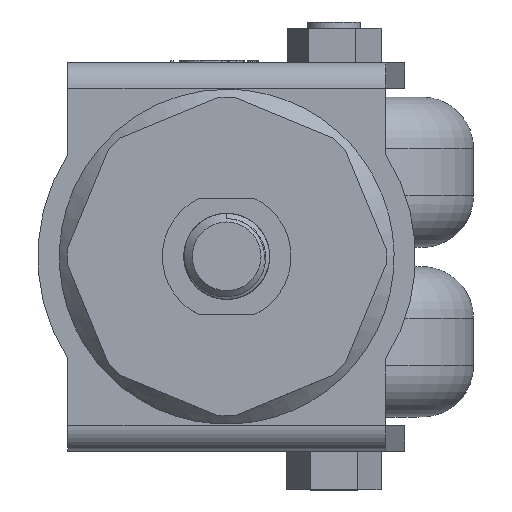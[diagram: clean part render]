
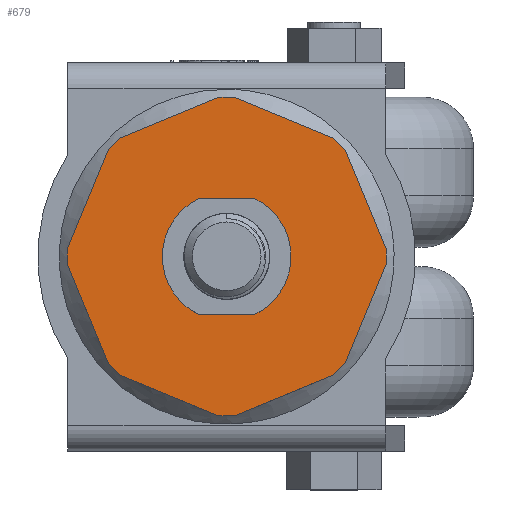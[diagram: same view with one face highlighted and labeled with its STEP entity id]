
A CAD part, top view. The second image highlights one B-rep face of the part: STEP entity #679.
In plain terms, the highlighted planar face has unit normal (0, 0, 1).
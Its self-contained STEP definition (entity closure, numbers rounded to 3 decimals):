
#679=ADVANCED_FACE('',(#1262,#1263),#985,.F.);
#985=PLANE('',#5667);
#1262=FACE_BOUND('',#1454,.T.);
#1263=FACE_BOUND('',#1455,.T.);
#1454=EDGE_LOOP('',(#2269,#2270,#2271,#2272));
#1455=EDGE_LOOP('',(#2273,#2274,#2275,#2276,#2277,#2278,#2279,#2280,#2281,
#2282,#2283,#2284,#2285,#2286,#2287,#2288));
#1868=CIRCLE('',#5662,15.);
#1869=CIRCLE('',#5665,15.);
#2269=ORIENTED_EDGE('',*,*,#4285,.F.);
#2270=ORIENTED_EDGE('',*,*,#4283,.F.);
#2271=ORIENTED_EDGE('',*,*,#4281,.F.);
#2272=ORIENTED_EDGE('',*,*,#4278,.F.);
#2273=ORIENTED_EDGE('',*,*,#4286,.T.);
#2274=ORIENTED_EDGE('',*,*,#4287,.T.);
#2275=ORIENTED_EDGE('',*,*,#4288,.T.);
#2276=ORIENTED_EDGE('',*,*,#4289,.T.);
#2277=ORIENTED_EDGE('',*,*,#4290,.T.);
#2278=ORIENTED_EDGE('',*,*,#4291,.T.);
#2279=ORIENTED_EDGE('',*,*,#4292,.T.);
#2280=ORIENTED_EDGE('',*,*,#4293,.T.);
#2281=ORIENTED_EDGE('',*,*,#4294,.T.);
#2282=ORIENTED_EDGE('',*,*,#4295,.T.);
#2283=ORIENTED_EDGE('',*,*,#4296,.T.);
#2284=ORIENTED_EDGE('',*,*,#4297,.T.);
#2285=ORIENTED_EDGE('',*,*,#4298,.T.);
#2286=ORIENTED_EDGE('',*,*,#4299,.T.);
#2287=ORIENTED_EDGE('',*,*,#4300,.T.);
#2288=ORIENTED_EDGE('',*,*,#4301,.T.);
#3720=VERTEX_POINT('',#11073);
#3721=VERTEX_POINT('',#11074);
#3722=VERTEX_POINT('',#11079);
#3723=VERTEX_POINT('',#11083);
#3724=VERTEX_POINT('',#11089);
#3725=VERTEX_POINT('',#11090);
#3726=VERTEX_POINT('',#11092);
#3727=VERTEX_POINT('',#11094);
#3728=VERTEX_POINT('',#11096);
#3729=VERTEX_POINT('',#11098);
#3730=VERTEX_POINT('',#11100);
#3731=VERTEX_POINT('',#11102);
#3732=VERTEX_POINT('',#11104);
#3733=VERTEX_POINT('',#11106);
#3734=VERTEX_POINT('',#11108);
#3735=VERTEX_POINT('',#11110);
#3736=VERTEX_POINT('',#11112);
#3737=VERTEX_POINT('',#11114);
#3738=VERTEX_POINT('',#11116);
#3739=VERTEX_POINT('',#11118);
#4278=EDGE_CURVE('',#3720,#3721,#4871,.T.);
#4281=EDGE_CURVE('',#3721,#3722,#1868,.T.);
#4283=EDGE_CURVE('',#3722,#3723,#4875,.T.);
#4285=EDGE_CURVE('',#3723,#3720,#1869,.T.);
#4286=EDGE_CURVE('',#3724,#3725,#4877,.T.);
#4287=EDGE_CURVE('',#3725,#3726,#4878,.T.);
#4288=EDGE_CURVE('',#3726,#3727,#4879,.T.);
#4289=EDGE_CURVE('',#3727,#3728,#4880,.T.);
#4290=EDGE_CURVE('',#3728,#3729,#4881,.T.);
#4291=EDGE_CURVE('',#3729,#3730,#4882,.T.);
#4292=EDGE_CURVE('',#3730,#3731,#4883,.T.);
#4293=EDGE_CURVE('',#3731,#3732,#4884,.T.);
#4294=EDGE_CURVE('',#3732,#3733,#4885,.T.);
#4295=EDGE_CURVE('',#3733,#3734,#4886,.T.);
#4296=EDGE_CURVE('',#3734,#3735,#4887,.T.);
#4297=EDGE_CURVE('',#3735,#3736,#4888,.T.);
#4298=EDGE_CURVE('',#3736,#3737,#4889,.T.);
#4299=EDGE_CURVE('',#3737,#3738,#4890,.T.);
#4300=EDGE_CURVE('',#3738,#3739,#4891,.T.);
#4301=EDGE_CURVE('',#3739,#3724,#4892,.T.);
#4871=LINE('',#11072,#5246);
#4875=LINE('',#11082,#5250);
#4877=LINE('',#11088,#5252);
#4878=LINE('',#11091,#5253);
#4879=LINE('',#11093,#5254);
#4880=LINE('',#11095,#5255);
#4881=LINE('',#11097,#5256);
#4882=LINE('',#11099,#5257);
#4883=LINE('',#11101,#5258);
#4884=LINE('',#11103,#5259);
#4885=LINE('',#11105,#5260);
#4886=LINE('',#11107,#5261);
#4887=LINE('',#11109,#5262);
#4888=LINE('',#11111,#5263);
#4889=LINE('',#11113,#5264);
#4890=LINE('',#11115,#5265);
#4891=LINE('',#11117,#5266);
#4892=LINE('',#11119,#5267);
#5246=VECTOR('',#6290,1.);
#5250=VECTOR('',#6300,1.);
#5252=VECTOR('',#6308,1.);
#5253=VECTOR('',#6309,1.);
#5254=VECTOR('',#6310,1.);
#5255=VECTOR('',#6311,1.);
#5256=VECTOR('',#6312,1.);
#5257=VECTOR('',#6313,1.);
#5258=VECTOR('',#6314,1.);
#5259=VECTOR('',#6315,1.);
#5260=VECTOR('',#6316,1.);
#5261=VECTOR('',#6317,1.);
#5262=VECTOR('',#6318,1.);
#5263=VECTOR('',#6319,1.);
#5264=VECTOR('',#6320,1.);
#5265=VECTOR('',#6321,1.);
#5266=VECTOR('',#6322,1.);
#5267=VECTOR('',#6323,1.);
#5662=AXIS2_PLACEMENT_3D('',#11078,#6295,#6296);
#5665=AXIS2_PLACEMENT_3D('',#11086,#6304,#6305);
#5667=AXIS2_PLACEMENT_3D('',#11120,#6324,#6325);
#6290=DIRECTION('',(1.,0.,0.));
#6295=DIRECTION('',(0.,0.,1.));
#6296=DIRECTION('',(1.,0.,0.));
#6300=DIRECTION('',(-1.,0.,0.));
#6304=DIRECTION('',(0.,0.,1.));
#6305=DIRECTION('',(1.,0.,0.));
#6308=DIRECTION('',(-0.924,0.383,0.));
#6309=DIRECTION('',(-1.,0.,0.));
#6310=DIRECTION('',(-0.924,-0.383,0.));
#6311=DIRECTION('',(-0.707,-0.707,0.));
#6312=DIRECTION('',(-0.383,-0.924,0.));
#6313=DIRECTION('',(0.,-1.,0.));
#6314=DIRECTION('',(0.383,-0.924,0.));
#6315=DIRECTION('',(0.707,-0.707,0.));
#6316=DIRECTION('',(0.924,-0.383,0.));
#6317=DIRECTION('',(1.,0.,0.));
#6318=DIRECTION('',(0.924,0.383,0.));
#6319=DIRECTION('',(0.707,0.707,0.));
#6320=DIRECTION('',(0.383,0.924,0.));
#6321=DIRECTION('',(0.,1.,0.));
#6322=DIRECTION('',(-0.383,0.924,0.));
#6323=DIRECTION('',(-0.707,0.707,0.));
#6324=DIRECTION('',(0.,0.,-1.));
#6325=DIRECTION('',(0.,1.,0.));
#11072=CARTESIAN_POINT('',(-6.538,-13.5,-40.));
#11073=CARTESIAN_POINT('',(-6.538,-13.5,-40.));
#11074=CARTESIAN_POINT('',(6.538,-13.5,-40.));
#11078=CARTESIAN_POINT('',(0.,0.,-40.));
#11079=CARTESIAN_POINT('',(6.538,13.5,-40.));
#11082=CARTESIAN_POINT('',(6.538,13.5,-40.));
#11083=CARTESIAN_POINT('',(-6.538,13.5,-40.));
#11086=CARTESIAN_POINT('',(0.,0.,-40.));
#11088=CARTESIAN_POINT('',(13.394,32.336,-40.));
#11089=CARTESIAN_POINT('',(24.94,27.553,-40.));
#11090=CARTESIAN_POINT('',(1.848,37.118,-40.));
#11091=CARTESIAN_POINT('',(-1.848,37.118,-40.));
#11092=CARTESIAN_POINT('',(-1.848,37.118,-40.));
#11093=CARTESIAN_POINT('',(-13.394,32.336,-40.));
#11094=CARTESIAN_POINT('',(-24.94,27.553,-40.));
#11095=CARTESIAN_POINT('',(-27.553,24.94,-40.));
#11096=CARTESIAN_POINT('',(-27.553,24.94,-40.));
#11097=CARTESIAN_POINT('',(-32.336,13.394,-40.));
#11098=CARTESIAN_POINT('',(-37.118,1.848,-40.));
#11099=CARTESIAN_POINT('',(-37.118,-1.848,-40.));
#11100=CARTESIAN_POINT('',(-37.118,-1.848,-40.));
#11101=CARTESIAN_POINT('',(-32.336,-13.394,-40.));
#11102=CARTESIAN_POINT('',(-27.553,-24.94,-40.));
#11103=CARTESIAN_POINT('',(-24.94,-27.553,-40.));
#11104=CARTESIAN_POINT('',(-24.94,-27.553,-40.));
#11105=CARTESIAN_POINT('',(-13.394,-32.336,-40.));
#11106=CARTESIAN_POINT('',(-1.848,-37.118,-40.));
#11107=CARTESIAN_POINT('',(1.848,-37.118,-40.));
#11108=CARTESIAN_POINT('',(1.848,-37.118,-40.));
#11109=CARTESIAN_POINT('',(13.394,-32.336,-40.));
#11110=CARTESIAN_POINT('',(24.94,-27.553,-40.));
#11111=CARTESIAN_POINT('',(27.553,-24.94,-40.));
#11112=CARTESIAN_POINT('',(27.553,-24.94,-40.));
#11113=CARTESIAN_POINT('',(32.336,-13.394,-40.));
#11114=CARTESIAN_POINT('',(37.118,-1.848,-40.));
#11115=CARTESIAN_POINT('',(37.118,1.848,-40.));
#11116=CARTESIAN_POINT('',(37.118,1.848,-40.));
#11117=CARTESIAN_POINT('',(32.336,13.394,-40.));
#11118=CARTESIAN_POINT('',(27.553,24.94,-40.));
#11119=CARTESIAN_POINT('',(24.94,27.553,-40.));
#11120=CARTESIAN_POINT('',(0.,0.,-40.));
